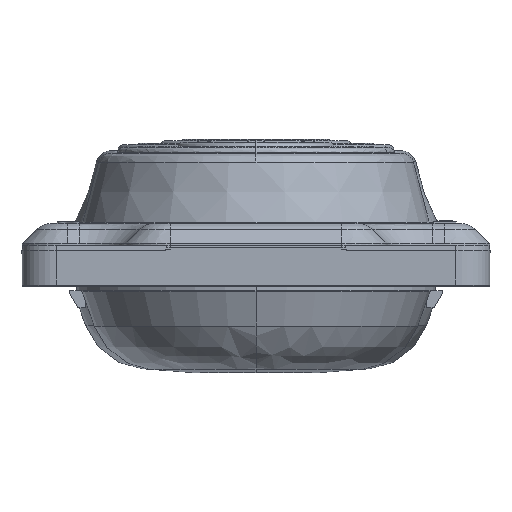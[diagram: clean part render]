
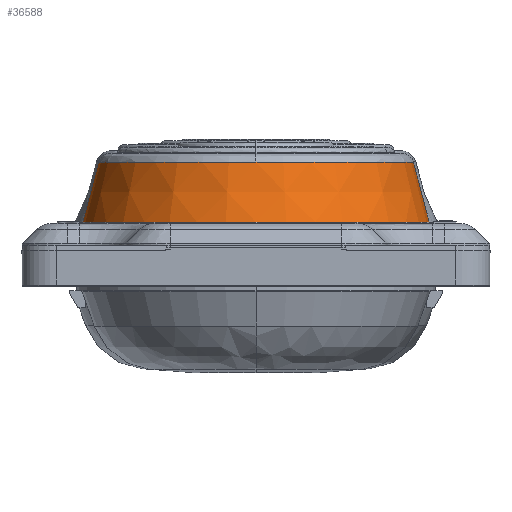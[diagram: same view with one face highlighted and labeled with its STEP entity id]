
A CAD part, left-side view. The second image highlights one B-rep face of the part: STEP entity #36588.
In plain terms, the highlighted conical face has half-angle 14.654 degrees and reference radius 30.337 mm.
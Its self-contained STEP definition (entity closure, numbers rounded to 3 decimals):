
#5460 = EDGE_LOOP ( 'NONE', ( #31131, #35199, #35200, #35198, #35205, #35208 ) ) ;
#8811 = AXIS2_PLACEMENT_3D ( 'NONE', #14077, #14079, #14081 ) ;
#8817 = CIRCLE ( 'NONE', #8811, 30.337 ) ;
#9080 = CARTESIAN_POINT ( 'NONE',  ( -65., 0., 38.534 ) ) ;
#9081 = DIRECTION ( 'NONE',  ( 0., 0., -1. ) ) ;
#9082 = DIRECTION ( 'NONE',  ( -1., 0., 0. ) ) ;
#11207 = CARTESIAN_POINT ( 'NONE',  ( -65., -30.337, 28.024 ) ) ;
#11746 = CARTESIAN_POINT ( 'NONE',  ( -95.337, 0., 28.024 ) ) ;
#11777 = CARTESIAN_POINT ( 'NONE',  ( -65., -27.589, 38.534 ) ) ;
#12008 = CARTESIAN_POINT ( 'NONE',  ( -92.589, 0., 38.534 ) ) ;
#14077 = CARTESIAN_POINT ( 'NONE',  ( -65., 0., 28.024 ) ) ;
#14079 = DIRECTION ( 'NONE',  ( 0., 0., 1. ) ) ;
#14081 = DIRECTION ( 'NONE',  ( 1., 0., 0. ) ) ;
#15398 = LINE ( 'NONE', #15400, #31192 ) ;
#15400 = CARTESIAN_POINT ( 'NONE',  ( -65., -30.337, 28.024 ) ) ;
#15401 = DIRECTION ( 'NONE',  ( 0., -0.253, -0.967 ) ) ;
#15927 = CARTESIAN_POINT ( 'NONE',  ( -65., 30.337, 28.024 ) ) ;
#15931 = LINE ( 'NONE', #15927, #16382 ) ;
#15935 = CARTESIAN_POINT ( 'NONE',  ( -65., 0., 38.534 ) ) ;
#15936 = DIRECTION ( 'NONE',  ( 0., 0., -1. ) ) ;
#15937 = DIRECTION ( 'NONE',  ( -1., 0., 0. ) ) ;
#15939 = DIRECTION ( 'NONE',  ( 0., 0.253, -0.967 ) ) ;
#15941 = CARTESIAN_POINT ( 'NONE',  ( -65., 0., 28.024 ) ) ;
#15942 = DIRECTION ( 'NONE',  ( 0., 0., 1. ) ) ;
#15943 = DIRECTION ( 'NONE',  ( 1., 0., 0. ) ) ;
#16382 = VECTOR ( 'NONE', #15939, 1000. ) ;
#16386 = CIRCLE ( 'NONE', #16390, 27.589 ) ;
#16390 = AXIS2_PLACEMENT_3D ( 'NONE', #15935, #15936, #15937 ) ;
#16435 = VERTEX_POINT ( 'NONE', #29856 ) ;
#16530 = VERTEX_POINT ( 'NONE', #11207 ) ;
#16828 = VERTEX_POINT ( 'NONE', #11746 ) ;
#16844 = VERTEX_POINT ( 'NONE', #11777 ) ;
#16967 = VERTEX_POINT ( 'NONE', #12008 ) ;
#17370 = VERTEX_POINT ( 'NONE', #23862 ) ;
#23862 = CARTESIAN_POINT ( 'NONE',  ( -65., 30.337, 28.024 ) ) ;
#26197 = AXIS2_PLACEMENT_3D ( 'NONE', #9080, #9081, #9082 ) ;
#29449 = CIRCLE ( 'NONE', #26197, 27.589 ) ;
#29856 = CARTESIAN_POINT ( 'NONE',  ( -65., 27.589, 38.534 ) ) ;
#31131 = ORIENTED_EDGE ( 'NONE', *, *, #39518, .F. ) ;
#31192 = VECTOR ( 'NONE', #15401, 1000. ) ;
#35198 = ORIENTED_EDGE ( 'NONE', *, *, #38955, .F. ) ;
#35199 = ORIENTED_EDGE ( 'NONE', *, *, #38880, .T. ) ;
#35200 = ORIENTED_EDGE ( 'NONE', *, *, #39044, .F. ) ;
#35205 = ORIENTED_EDGE ( 'NONE', *, *, #38954, .F. ) ;
#35208 = ORIENTED_EDGE ( 'NONE', *, *, #38953, .F. ) ;
#35234 = AXIS2_PLACEMENT_3D ( 'NONE', #15941, #15942, #15943 ) ;
#35237 = CIRCLE ( 'NONE', #35234, 30.337 ) ;
#36186 = DIRECTION ( 'NONE',  ( 0., 1., 0. ) ) ;
#36188 = CARTESIAN_POINT ( 'NONE',  ( -65., 0., 28.024 ) ) ;
#36189 = FACE_OUTER_BOUND ( 'NONE', #5460, .T. ) ;
#36190 = DIRECTION ( 'NONE',  ( 0., 0., -1. ) ) ;
#36588 = ADVANCED_FACE ( 'NONE', ( #36189 ), #40048, .F. ) ;
#38880 = EDGE_CURVE ( 'NONE', #16844, #16530, #15398, .T. ) ;
#38953 = EDGE_CURVE ( 'NONE', #16967, #16435, #16386, .T. ) ;
#38954 = EDGE_CURVE ( 'NONE', #16435, #17370, #15931, .T. ) ;
#38955 = EDGE_CURVE ( 'NONE', #17370, #16828, #35237, .T. ) ;
#39044 = EDGE_CURVE ( 'NONE', #16828, #16530, #8817, .T. ) ;
#39518 = EDGE_CURVE ( 'NONE', #16844, #16967, #29449, .T. ) ;
#39705 = AXIS2_PLACEMENT_3D ( 'NONE', #36188, #36190, #36186 ) ;
#40048 = CONICAL_SURFACE ( 'NONE', #39705, 30.337, 0.256 ) ;
